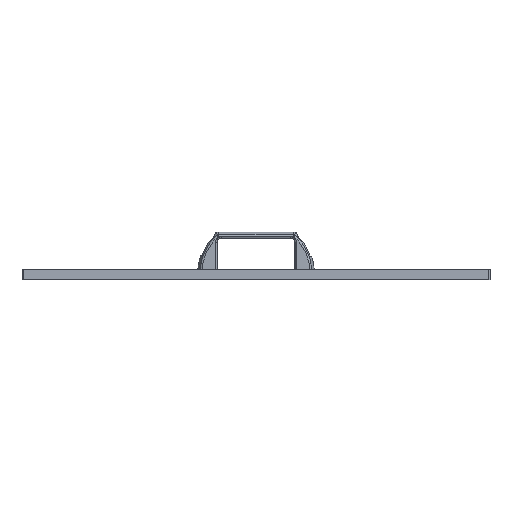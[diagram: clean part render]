
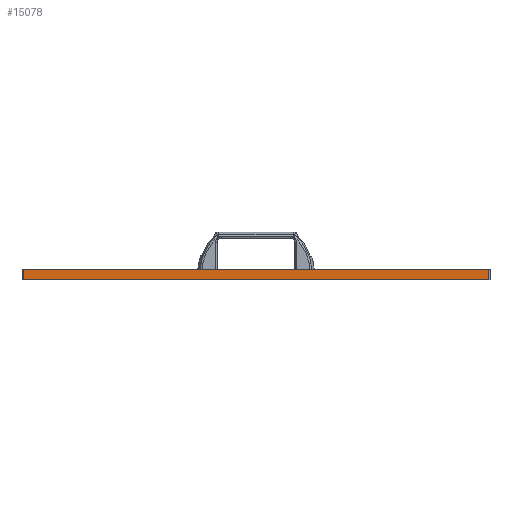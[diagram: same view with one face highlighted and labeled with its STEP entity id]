
A CAD part, front view. The second image highlights one B-rep face of the part: STEP entity #15078.
In plain terms, the highlighted planar face has unit normal (0, -1, 0).
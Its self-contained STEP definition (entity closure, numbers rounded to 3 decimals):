
#2926=CARTESIAN_POINT('',(-224.,-300.0,10.0));
#2927=VERTEX_POINT('',#2926);
#2934=CARTESIAN_POINT('',(224.,-300.0,10.0));
#2935=VERTEX_POINT('',#2934);
#2936=CARTESIAN_POINT('',(224.,-300.0,10.0));
#2937=DIRECTION('',(-1.0,0.0,0.0));
#2938=VECTOR('',#2937,448.);
#2939=LINE('',#2936,#2938);
#2940=EDGE_CURVE('',#2935,#2927,#2939,.T.);
#10129=CARTESIAN_POINT('',(224.,-300.0,0.0));
#10130=VERTEX_POINT('',#10129);
#10137=CARTESIAN_POINT('',(-224.,-300.0,0.0));
#10138=VERTEX_POINT('',#10137);
#10139=CARTESIAN_POINT('',(-224.,-300.0,0.0));
#10140=DIRECTION('',(1.0,0.0,0.0));
#10141=VECTOR('',#10140,448.);
#10142=LINE('',#10139,#10141);
#10143=EDGE_CURVE('',#10138,#10130,#10142,.T.);
#15053=CARTESIAN_POINT('',(-224.,-300.0,0.0));
#15054=DIRECTION('',(0.0,0.0,1.0));
#15055=VECTOR('',#15054,10.0);
#15056=LINE('',#15053,#15055);
#15057=EDGE_CURVE('',#10138,#2927,#15056,.T.);
#15062=CARTESIAN_POINT('',(225.,-300.0,0.0));
#15063=DIRECTION('',(0.0,-1.0,0.0));
#15064=DIRECTION('',(0.0,0.0,-1.0));
#15065=AXIS2_PLACEMENT_3D('',#15062,#15063,#15064);
#15066=PLANE('',#15065);
#15067=ORIENTED_EDGE('',*,*,#15057,.F.);
#15068=ORIENTED_EDGE('',*,*,#10143,.T.);
#15069=CARTESIAN_POINT('',(224.,-300.0,10.0));
#15070=DIRECTION('',(0.0,0.0,-1.0));
#15071=VECTOR('',#15070,10.0);
#15072=LINE('',#15069,#15071);
#15073=EDGE_CURVE('',#2935,#10130,#15072,.T.);
#15074=ORIENTED_EDGE('',*,*,#15073,.F.);
#15075=ORIENTED_EDGE('',*,*,#2940,.T.);
#15076=EDGE_LOOP('',(#15067,#15068,#15074,#15075));
#15077=FACE_OUTER_BOUND('',#15076,.T.);
#15078=ADVANCED_FACE('',(#15077),#15066,.T.);
